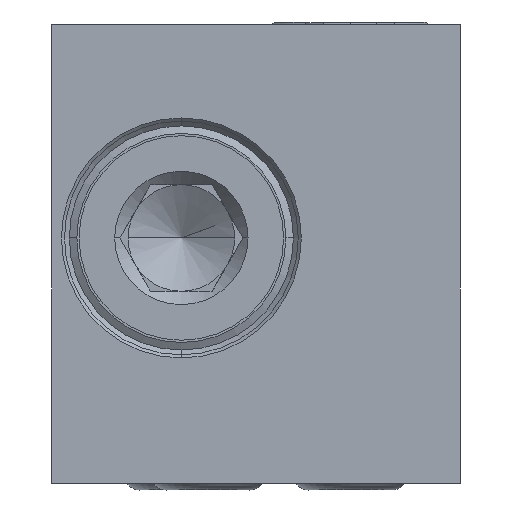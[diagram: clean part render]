
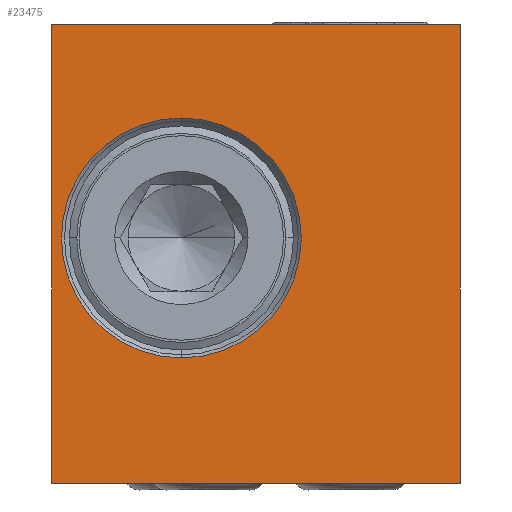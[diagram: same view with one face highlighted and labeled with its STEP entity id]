
A CAD part, left-side view. The second image highlights one B-rep face of the part: STEP entity #23475.
In plain terms, the highlighted planar face has unit normal (-1, 0, 0).
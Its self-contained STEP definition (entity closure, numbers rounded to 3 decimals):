
#4373=DIRECTION('',(0.,0.,1.));
#4374=VECTOR('',#4373,25.8);
#4375=CARTESIAN_POINT('',(-38.,11.5,-12.9));
#4376=LINE('',#4375,#4374);
#4377=DIRECTION('',(0.,-1.,0.));
#4378=VECTOR('',#4377,23.);
#4379=CARTESIAN_POINT('',(-38.,11.5,12.9));
#4380=LINE('',#4379,#4378);
#4381=DIRECTION('',(0.,0.,-1.));
#4382=VECTOR('',#4381,25.8);
#4383=CARTESIAN_POINT('',(-38.,-11.5,12.9));
#4384=LINE('',#4383,#4382);
#4385=DIRECTION('',(0.,1.,0.));
#4386=VECTOR('',#4385,23.);
#4387=CARTESIAN_POINT('',(-38.,-11.5,-12.9));
#4388=LINE('',#4387,#4386);
#4389=CARTESIAN_POINT('',(-38.,4.2,0.9));
#4390=DIRECTION('',(-1.,0.,0.));
#4391=DIRECTION('',(0.,0.,-1.));
#4392=AXIS2_PLACEMENT_3D('',#4389,#4390,#4391);
#4394=CARTESIAN_POINT('',(-38.,4.2,0.9));
#4395=DIRECTION('',(-1.,0.,0.));
#4396=DIRECTION('',(0.,0.,1.));
#4397=AXIS2_PLACEMENT_3D('',#4394,#4395,#4396);
#16027=CARTESIAN_POINT('',(-38.,11.5,12.9));
#16028=VERTEX_POINT('',#16027);
#16029=CARTESIAN_POINT('',(-38.,11.5,-12.9));
#16030=VERTEX_POINT('',#16029);
#16031=CARTESIAN_POINT('',(-38.,-11.5,12.9));
#16032=VERTEX_POINT('',#16031);
#16053=CARTESIAN_POINT('',(-38.,-11.5,-12.9));
#16054=VERTEX_POINT('',#16053);
#16099=CARTESIAN_POINT('',(-38.,4.2,-5.85));
#16100=CARTESIAN_POINT('',(-38.,4.2,7.65));
#16101=VERTEX_POINT('',#16099);
#16102=VERTEX_POINT('',#16100);
#23456=CARTESIAN_POINT('',(-38.,0.,0.));
#23457=DIRECTION('',(-1.,0.,0.));
#23458=DIRECTION('',(0.,-1.,0.));
#23459=AXIS2_PLACEMENT_3D('',#23456,#23457,#23458);
#23460=PLANE('',#23459);
#23461=ORIENTED_EDGE('',*,*,#23449,.T.);
#23462=ORIENTED_EDGE('',*,*,#21027,.T.);
#23464=ORIENTED_EDGE('',*,*,#23463,.T.);
#23466=ORIENTED_EDGE('',*,*,#23465,.T.);
#23467=EDGE_LOOP('',(#23461,#23462,#23464,#23466));
#23468=FACE_OUTER_BOUND('',#23467,.F.);
#23470=ORIENTED_EDGE('',*,*,#23469,.T.);
#23472=ORIENTED_EDGE('',*,*,#23471,.T.);
#23473=EDGE_LOOP('',(#23470,#23472));
#23474=FACE_BOUND('',#23473,.F.);
#23475=ADVANCED_FACE('',(#23468,#23474),#23460,.T.);
#4393=CIRCLE('',#4392,6.75);
#4398=CIRCLE('',#4397,6.75);
#21027=EDGE_CURVE('',#16028,#16032,#4380,.T.);
#23449=EDGE_CURVE('',#16030,#16028,#4376,.T.);
#23463=EDGE_CURVE('',#16032,#16054,#4384,.T.);
#23465=EDGE_CURVE('',#16054,#16030,#4388,.T.);
#23469=EDGE_CURVE('',#16101,#16102,#4393,.T.);
#23471=EDGE_CURVE('',#16102,#16101,#4398,.T.);
